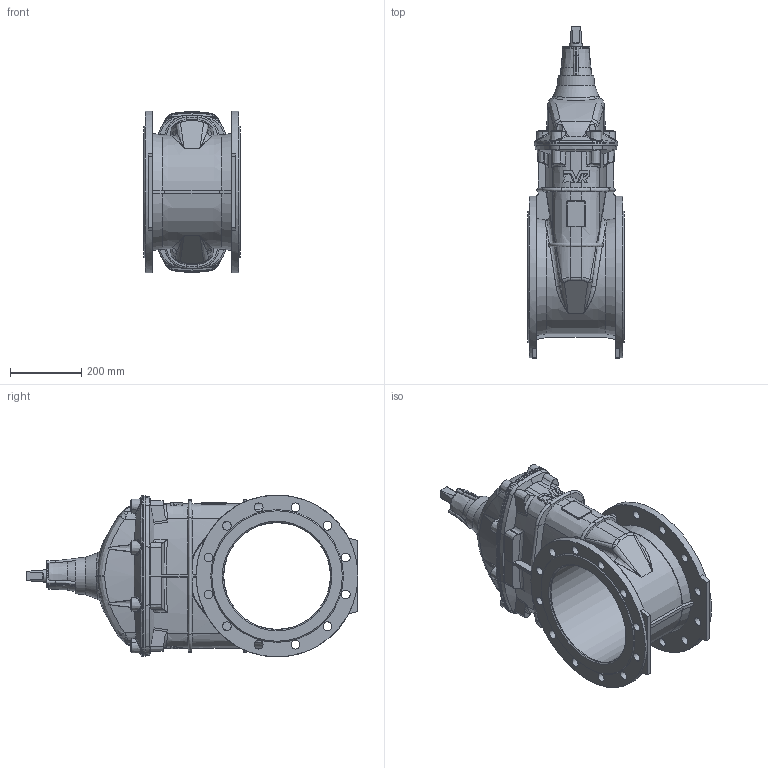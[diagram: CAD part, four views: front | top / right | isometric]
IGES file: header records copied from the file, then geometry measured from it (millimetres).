
Start section: SolidWorks IGES file using analytic representation for surfaces
Global section: file name: \\avksan2\techshare\PBM outline export from Enovia\O_06_30_DN300_XXXXX87_PN10_REV02.igs; native system: SolidWorks 2019; preprocessor: SolidWorks 2019; author: pbm; date: 210111.115858; units: millimetre
Bounding box: 270 x 933.55 x 455 mm (x, y, z)
Surface area: 1453331.4 mm2 (no closed solid volume)
Topology: 0 solids, 0 shells, 737 faces, 4889 edges, 4835 vertices
Faces by surface type: bspline 377, revolution 360
